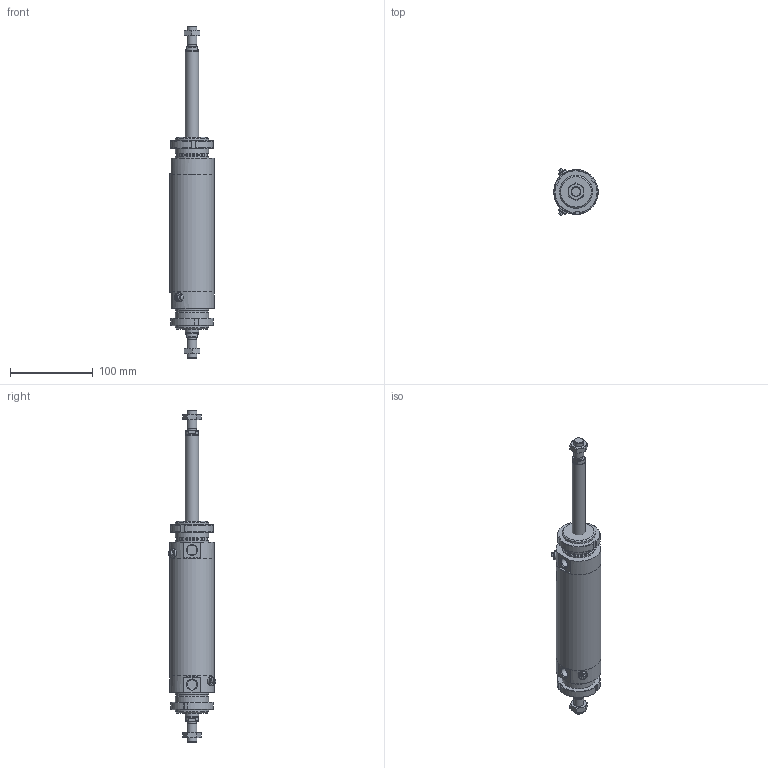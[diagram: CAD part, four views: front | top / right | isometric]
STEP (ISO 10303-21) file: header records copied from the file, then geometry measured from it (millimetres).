
FILE_DESCRIPTION(/* description */ (''),/* implementation_level */ '2;1');
FILE_NAME(/* name */ 'I:\Area Tecnica\Documenti\A-Manieri\_Inventor\12X\12X#S_###_####_#_#\12XDS_050_0100_#_#.stp',/* time_stamp */ '2015-05-13T08:20:28+02:00',/* author */ ('maniean1'),/* organization */ ('Pneumax S.p.A.'),/* preprocessor_version */ 'ST-DEVELOPER v15.2',/* originating_system */ 'Autodesk Inventor 2014',/* authorisation */ '');
FILE_SCHEMA (('AUTOMOTIVE_DESIGN { 1 0 10303 214 3 1 1 }'));
Length unit declared in the file: millimetre
Products named in the file (6): C1250_619-0100; 12X50_606; SP12X50_0100; 12X_50_11; G12X_050_05; 12XDS_050_0100_#_#
Bounding box: 54 x 57.75 x 402 mm (x, y, z)
Volume: 351936.9 mm3; surface area: 112085.2 mm2
Topology: 8 solids, 8 shells, 151 faces, 345 edges, 222 vertices
Faces by surface type: plane 78, cylinder 37, cone 34, torus 2
Full cylindrical faces by diameter (mm): 5 x2, 10.2 x2, 11 x2, 11.4 x2, 12 x4, 14 x2, 15.6 x2, 16 x2, 38.2 x2, 40 x6, 50 x2, 54 x3
Entity records: 2556 total; most frequent: CARTESIAN_POINT 505, DIRECTION 428, ORIENTED_EDGE 342, AXIS2_PLACEMENT_3D 182, EDGE_CURVE 171, EDGE_LOOP 144, VERTEX_POINT 129, ADVANCED_FACE 94
